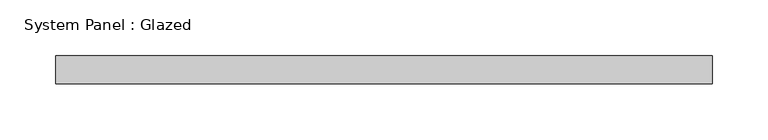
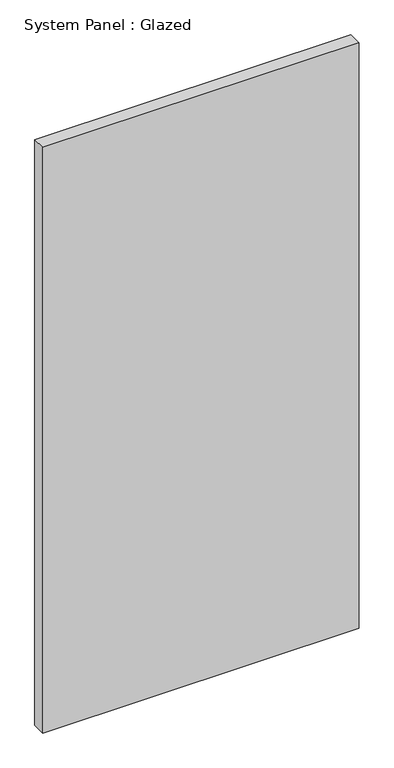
"""IFC4 building model written with IfcOpenShell, lengths in millimetres: plate geometry, System Panel : Glazed."""

from ifc_helpers import new_model, si_unit, origin, origin_with_axes, place, context, project, spatial, polyline, outline, extrude, source, transform, mapped, element, save


def system_panel_glazed_a675a60c(model_context):
    return source(origin(), model_context, "Body", "SweptSolid", [
        extrude(outline(polyline([(295.275, -44.45), (-295.275, -44.45), (-295.275, -19.05), (295.275, -19.05), (295.275, -44.45)])), origin_with_axes(), (0.0, 0.0, 1.0), 1155.7),
    ])


if __name__ == "__main__":
    model = new_model("IFC4")
    model_context = context("Model", 3, world=origin())
    ifc_project = project(units=[si_unit("LENGTHUNIT", "METRE", prefix="MILLI")], contexts=[model_context])
    site = spatial("IfcSite", under=ifc_project)
    building = spatial("IfcBuilding", under=site)
    placement = place(None, origin())
    system_panel_glazed_shape = system_panel_glazed_a675a60c(model_context)
    element("IfcPlate", 1, ObjectType="System Panel : Glazed", at=placement, inside=building, context=model_context, shape_type="MappedRepresentation", body=[
        mapped(system_panel_glazed_shape, transform((0.0, 0.0, 0.0), x_axis=(1.0, 0.0, 0.0), y_axis=(0.0, 1.0, 0.0), z_axis=(0.0, 0.0, 1.0))),
    ])
    save(model, "model.ifc")
